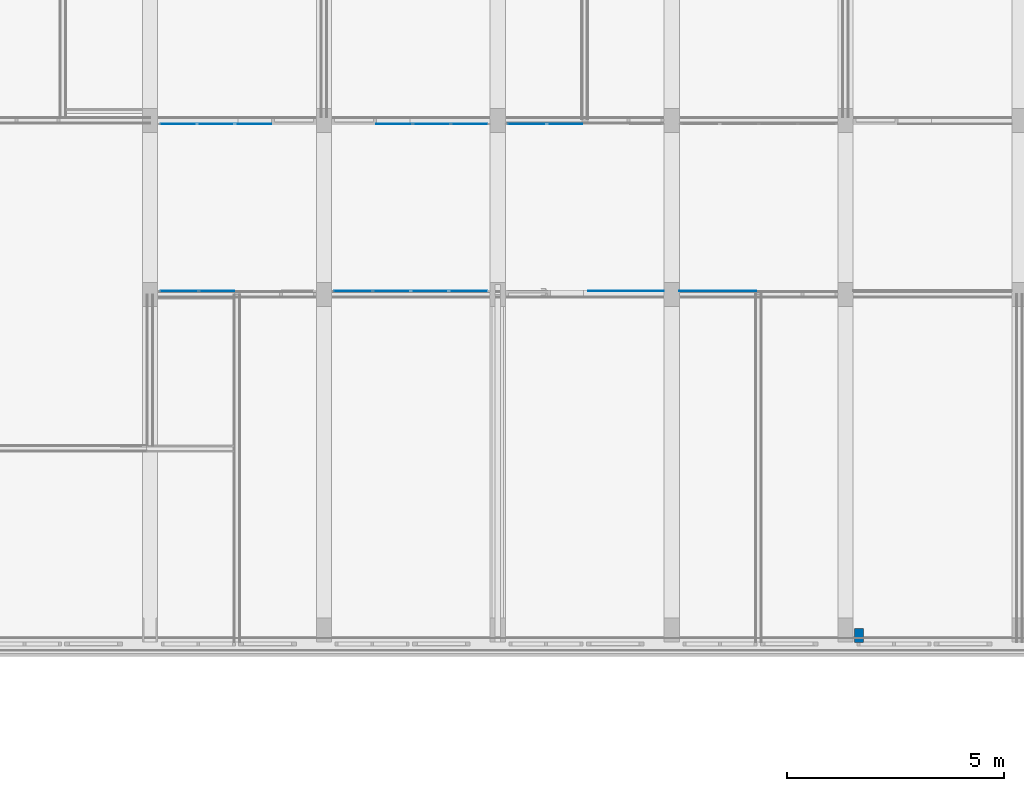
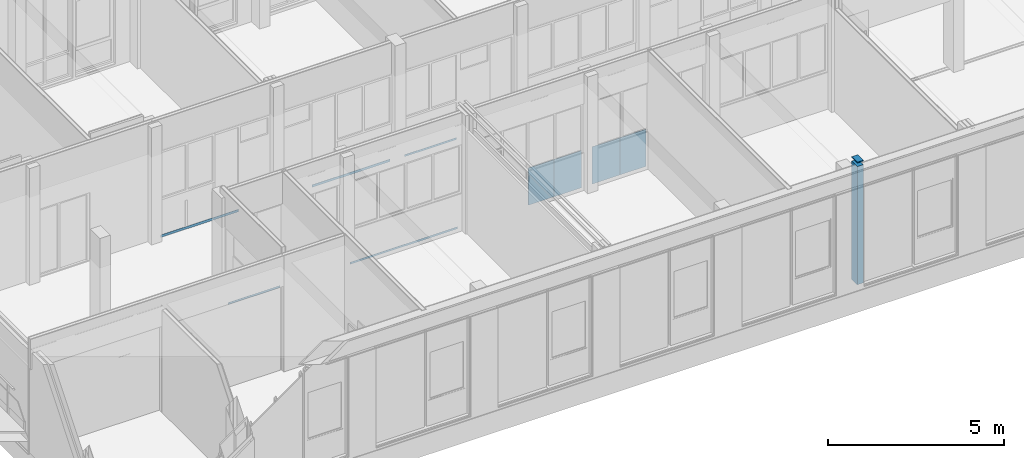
# One storey, part 24 of 94: 10 walls.
"""IFC2X3 building model written with IfcOpenShell, lengths in millimetres."""

from ifc_helpers import new_model, entity, si_unit, converted_unit, derived_unit, money_unit, direction, frame, origin_with_axes, place, context, subcontext, project, spatial, faceted_brep, material, type_object, element, save


model = new_model("IFC2X3")

# Units and contexts
model_context = context("Model", 3, precision=0.01, world=origin_with_axes(), true_north=direction((0.0, 1.0)))
body_context = subcontext(model_context, "Body", "Model", "MODEL_VIEW")
ifc_project = project(units=[si_unit("LENGTHUNIT", "METRE", prefix="MILLI"), si_unit("AREAUNIT", "SQUARE_METRE"), si_unit("VOLUMEUNIT", "CUBIC_METRE"), converted_unit("PLANEANGLEUNIT", "DEGREE", entity("IfcPlaneAngleMeasure", 0.0174532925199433), si_unit("PLANEANGLEUNIT", "RADIAN"), dimensions=[0, 0, 0, 0, 0, 0, 0]), money_unit("EUR"), converted_unit("TIMEUNIT", "Year", entity("IfcTimeMeasure", 31557600.0), si_unit("TIMEUNIT", "SECOND"), dimensions=[0, 0, 1, 0, 0, 0, 0]), si_unit("MASSUNIT", "GRAM", prefix="KILO"), si_unit("THERMODYNAMICTEMPERATUREUNIT", "DEGREE_CELSIUS"), si_unit("LUMINOUSINTENSITYUNIT", "LUMEN"), si_unit("ENERGYUNIT", "JOULE", prefix="MEGA"), derived_unit("THERMALCONDUCTANCEUNIT", [(si_unit("POWERUNIT", "WATT"), 1), (si_unit("LENGTHUNIT", "METRE"), -1), (si_unit("THERMODYNAMICTEMPERATUREUNIT", "KELVIN"), -1)]), derived_unit("SPECIFICHEATCAPACITYUNIT", [(si_unit("ENERGYUNIT", "JOULE"), 1), (si_unit("MASSUNIT", "GRAM", prefix="KILO"), -1), (si_unit("THERMODYNAMICTEMPERATUREUNIT", "KELVIN"), -1)]), derived_unit("MASSDENSITYUNIT", [(si_unit("MASSUNIT", "GRAM", prefix="KILO"), 1), (si_unit("VOLUMEUNIT", "CUBIC_METRE"), -1)])], contexts=[model_context])

# Site, building, storey
site_placement = place(None, origin_with_axes())
site = spatial("IfcSite", under=ifc_project, at=site_placement, Name="<site naam>", CompositionType="ELEMENT")
building_placement = place(site_placement, origin_with_axes())
building = spatial("IfcBuilding", under=site, at=building_placement, Name="<Naam gebouw>", CompositionType="ELEMENT")
storey_placement = place(building_placement, frame((0.0, 0.0, 4250.0), z_axis=(0.0, 0.0, 1.0), x_axis=(1.0, 0.0, 0.0)))
storey = spatial("IfcBuildingStorey", under=building, at=storey_placement, Name="01 1e verdieping", CompositionType="ELEMENT", Elevation=4250.0)

# Walls
ifc_material_1 = material(Name="ALG - BINNENWAND")
wall_type_1 = type_object("IfcWallType", Name="ALG - BINNENWAND 200", PredefinedType="NOTDEFINED")
wall_1_placement = place(storey_placement, frame((36310.41479495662, 318.690592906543, 0.0), z_axis=(0.0, 0.0, 1.0), x_axis=(0.0003538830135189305, -0.9999999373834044, 0.0)))
element("IfcWall", 1, at=wall_1_placement, inside=storey, type_object=wall_type_1, material=ifc_material_1, Name="22_Binnenwand_ALG", context=body_context, shape_type="Brep", body=[
    faceted_brep([(0.0, 100.0000000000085, 0.0), (0.0, 100.0000000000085, 4100.000000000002), (324.0893421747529, 100.0000000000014, 4100.000000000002), (324.0893421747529, 100.0000000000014, 0.0), (0.0, -100.0000000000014, 0.0), (0.0, -100.0000000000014, 4100.000000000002), (324.0893421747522, -100.0000000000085, 4100.000000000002), (324.0893421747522, -100.0000000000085, 0.0)], [[[0, 1, 2, 3]], [[4, 5, 1, 0]], [[5, 6, 2, 1]], [[3, 2, 6, 7]], [[4, 0, 3, 7]], [[7, 6, 5, 4]]]),
    faceted_brep([(324.0893421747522, -100.0000000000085, 4250.0), (324.0893421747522, -100.0000000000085, 4220.000000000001), (324.0893421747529, 100.0000000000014, 4220.000000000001), (324.0893421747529, 100.0000000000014, 4250.0), (0.0, -100.0000000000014, 4250.0), (0.0, -100.0000000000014, 4220.000000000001), (0.0, 100.0000000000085, 4220.000000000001), (0.0, 100.0000000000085, 4250.0)], [[[0, 1, 2, 3]], [[4, 5, 1, 0]], [[5, 6, 2, 1]], [[3, 2, 6, 7]], [[7, 4, 0, 3]], [[7, 6, 5, 4]]]),
])
ifc_material_2 = material(Name="ALG - BUITENAFWERKING")
wall_type_2 = type_object("IfcWallType", Name="ALG - BUITENAFWERKING 10", PredefinedType="NOTDEFINED")
wall_2_placement = place(storey_placement, frame((24242.99986017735, 8075.000000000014, 3.000000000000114), z_axis=(0.0, 0.0, 1.0), x_axis=(1.0, 0.0, 0.0)))
element("IfcWall", 2, at=wall_2_placement, inside=storey, type_object=wall_type_2, material=ifc_material_2, Name="42_Binnenwand_ALG", context=body_context, shape_type="Brep", body=[
    faceted_brep([(0.0, 0.0, 67.00000000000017), (3514.000000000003, 0.0, 67.00000000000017), (3514.000000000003, 9.999999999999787, 67.00000000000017), (0.0, 9.999999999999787, 67.00000000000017), (0.0, 0.0, 0.0), (3514.000000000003, 0.0, 0.0), (3514.000000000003, 9.999999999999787, 0.0), (0.0, 9.999999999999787, 0.0)], [[[0, 1, 2, 3]], [[4, 5, 1, 0]], [[2, 1, 5, 6]], [[3, 2, 6, 7]], [[4, 0, 3, 7]], [[7, 6, 5, 4]]]),
])
wall_3_placement = place(storey_placement, frame((25209.00000000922, 11925.00000000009, 0.0), z_axis=(0.0, 0.0, 1.0), x_axis=(1.0, 0.0, 0.0)))
element("IfcWall", 3, at=wall_3_placement, inside=storey, type_object=wall_type_2, material=ifc_material_2, Name="42_Binnenwand_ALG", context=body_context, shape_type="Brep", body=[
    faceted_brep([(2548.065956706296, -9.999999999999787, 86.99999999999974), (2548.065956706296, -9.999999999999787, 3.000000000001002), (2548.065956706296, 0.0, 3.000000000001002), (2548.065956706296, 0.0, 86.99999999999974), (0.0, -9.999999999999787, 86.99999999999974), (0.0, -9.999999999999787, 3.000000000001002), (0.0, 0.0, 3.000000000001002), (0.0, 0.0, 86.99999999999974)], [[[0, 1, 2, 3]], [[4, 5, 1, 0]], [[5, 6, 2, 1]], [[3, 2, 6, 7]], [[7, 4, 0, 3]], [[7, 6, 5, 4]]]),
])
wall_4_placement = place(storey_placement, frame((22790.99999999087, 11925.00000000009, 0.0), z_axis=(0.0, 0.0, 1.0), x_axis=(-1.0, 0.0, 0.0)))
element("IfcWall", 4, at=wall_4_placement, inside=storey, type_object=wall_type_2, material=ifc_material_2, Name="42_Binnenwand_ALG", context=body_context, shape_type="Brep", body=[
    faceted_brep([(0.0, 9.999999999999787, 86.99999999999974), (0.0, 9.999999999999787, 3.000000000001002), (0.0, 0.0, 3.000000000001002), (0.0, 0.0, 86.99999999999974), (2548.065956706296, 9.999999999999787, 86.99999999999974), (2548.065956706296, 9.999999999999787, 3.000000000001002), (2548.065956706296, 0.0, 3.000000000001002), (2548.065956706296, 0.0, 86.99999999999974)], [[[0, 1, 2, 3]], [[4, 5, 1, 0]], [[5, 6, 2, 1]], [[3, 2, 6, 7]], [[0, 3, 7, 4]], [[7, 6, 5, 4]]]),
])
wall_5_placement = place(storey_placement, frame((28242.99996298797, 11925.00000000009, 3.000000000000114), z_axis=(0.0, 0.0, 1.0), x_axis=(1.0, 0.0, 0.0)))
element("IfcWall", 5, at=wall_5_placement, inside=storey, type_object=wall_type_2, material=ifc_material_2, Name="42_Binnenwand_ALG", context=body_context, shape_type="Brep", body=[
    faceted_brep([(0.0, 0.0, 0.0), (1698.270012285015, 0.0, 0.0), (1698.270012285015, -10.00000000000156, 0.0), (0.0, -9.999999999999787, 0.0), (0.0, 0.0, 67.00000000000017), (1698.270012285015, 0.0, 67.00000000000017), (1698.270012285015, -10.00000000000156, 67.00000000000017), (0.0, -9.999999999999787, 67.00000000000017)], [[[0, 1, 2, 3]], [[4, 5, 1, 0]], [[2, 1, 5, 6]], [[3, 2, 6, 7]], [[4, 0, 3, 7]], [[7, 6, 5, 4]]]),
])
wall_6_placement = place(storey_placement, frame((30083.69374615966, 8075.000000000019, 0.0), z_axis=(0.0, 0.0, 1.0), x_axis=(1.0, 0.0, 0.0)))
element("IfcWall", 6, at=wall_6_placement, inside=storey, type_object=wall_type_2, material=ifc_material_2, Name="42_Binnenwand_ALG", context=body_context, shape_type="Brep", body=[
    faceted_brep([(835.5999999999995, 0.0, 1295.723114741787), (835.5999999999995, 0.0, 3.000000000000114), (835.5999999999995, 9.999999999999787, 3.000000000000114), (835.5999999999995, 9.999999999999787, 1295.723114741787), (0.0, 0.0, 1295.723114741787), (0.0, 0.0, 3.000000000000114), (0.0, 9.999999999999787, 3.000000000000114), (0.0, 9.999999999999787, 1295.723114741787)], [[[0, 1, 2, 3]], [[4, 5, 1, 0]], [[5, 6, 2, 1]], [[3, 2, 6, 7]], [[7, 4, 0, 3]], [[7, 6, 5, 4]]]),
])
wall_7_placement = place(storey_placement, frame((33090.55188349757, 8075.000000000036, 0.0), z_axis=(0.0, 0.0, 1.0), x_axis=(1.0, 0.0, 0.0)))
element("IfcWall", 7, at=wall_7_placement, inside=storey, type_object=wall_type_2, material=ifc_material_2, Name="42_Binnenwand_ALG", context=body_context, shape_type="Brep", body=[
    faceted_brep([(850.5831041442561, 0.0, 1295.723114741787), (850.5831041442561, 0.0, 3.000000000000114), (850.5831041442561, 9.999999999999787, 3.000000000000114), (850.5831041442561, 9.999999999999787, 1295.723114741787), (0.0, 0.0, 1295.723114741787), (0.0, 0.0, 3.000000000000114), (0.0, 9.999999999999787, 3.000000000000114), (0.0, 9.999999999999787, 1295.723114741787)], [[[0, 1, 2, 3]], [[4, 5, 1, 0]], [[5, 6, 2, 1]], [[3, 2, 6, 7]], [[7, 4, 0, 3]], [[7, 6, 5, 4]]]),
])
wall_8_placement = place(storey_placement, frame((30923.29374615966, 8075.000000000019, 0.0), z_axis=(0.0, 0.0, 1.0), x_axis=(1.0, 0.0, 0.0)))
element("IfcWall", 8, at=wall_8_placement, inside=storey, type_object=wall_type_2, material=ifc_material_2, Name="42_Binnenwand_ALG", context=body_context, shape_type="Brep", body=[
    faceted_brep([(897.9999999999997, 0.0, 1295.723114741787), (897.9999999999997, 0.0, 3.000000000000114), (897.9999999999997, 9.999999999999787, 3.000000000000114), (897.9999999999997, 9.999999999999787, 1295.723114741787), (0.0, 0.0, 1295.723114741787), (0.0, 0.0, 3.000000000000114), (0.0, 9.999999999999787, 3.000000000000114), (0.0, 9.999999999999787, 1295.723114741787)], [[[0, 1, 2, 3]], [[4, 5, 1, 0]], [[5, 6, 2, 1]], [[3, 2, 6, 7]], [[7, 4, 0, 3]], [[7, 6, 5, 4]]]),
])
wall_9_placement = place(storey_placement, frame((32178.97108528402, 8074.608534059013, 0.0), z_axis=(0.0, 0.0, 1.0), x_axis=(1.0, 0.0, 0.0)))
element("IfcWall", 9, at=wall_9_placement, inside=storey, type_object=wall_type_2, material=ifc_material_2, Name="42_Binnenwand_ALG", context=body_context, shape_type="Brep", body=[
    faceted_brep([(907.6000000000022, 0.0, 1295.723114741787), (907.6000000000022, 0.0, 3.000000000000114), (907.6000000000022, 9.999999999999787, 3.000000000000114), (907.6000000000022, 9.999999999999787, 1295.723114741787), (0.0, 0.0, 1295.723114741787), (0.0, 0.0, 3.000000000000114), (0.0, 9.999999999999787, 3.000000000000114), (0.0, 9.999999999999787, 1295.723114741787)], [[[0, 1, 2, 3]], [[4, 5, 1, 0]], [[5, 6, 2, 1]], [[3, 2, 6, 7]], [[7, 4, 0, 3]], [[7, 6, 5, 4]]]),
])
wall_10_placement = place(storey_placement, frame((20242.99996298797, 8075.000000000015, 3.000000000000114), z_axis=(0.0, 0.0, 1.0), x_axis=(1.0, 0.0, 0.0)))
element("IfcWall", 10, at=wall_10_placement, inside=storey, type_object=wall_type_2, material=ifc_material_2, Name="42_Binnenwand_ALG", context=body_context, shape_type="Brep", body=[
    faceted_brep([(0.0, 0.0, 67.00000000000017), (1698.270012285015, 0.0, 67.00000000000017), (1698.270012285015, 10.00000000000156, 67.00000000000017), (0.0, 9.999999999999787, 67.00000000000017), (0.0, 0.0, 0.0), (1698.270012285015, 0.0, 0.0), (1698.270012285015, 10.00000000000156, 0.0), (0.0, 9.999999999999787, 0.0)], [[[0, 1, 2, 3]], [[4, 5, 1, 0]], [[2, 1, 5, 6]], [[3, 2, 6, 7]], [[4, 0, 3, 7]], [[7, 6, 5, 4]]]),
])

save(model, "model.ifc")
